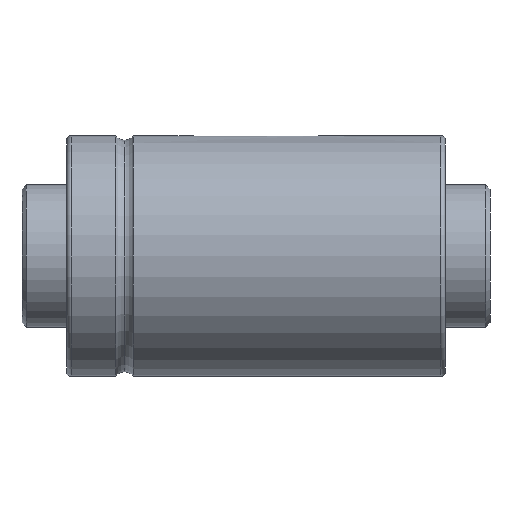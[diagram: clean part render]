
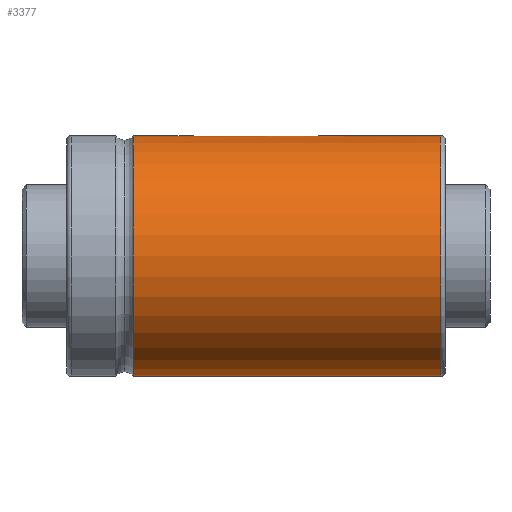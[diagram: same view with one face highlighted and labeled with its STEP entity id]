
A CAD part, front view. The second image highlights one B-rep face of the part: STEP entity #3377.
In plain terms, the highlighted cylindrical face has radius 27 mm (diameter 54 mm), a partial arc.
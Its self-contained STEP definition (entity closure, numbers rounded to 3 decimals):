
#86 = CARTESIAN_POINT ( 'NONE',  ( 84., 0., 0. ) ) ;
#111 = VERTEX_POINT ( 'NONE', #157 ) ;
#157 = CARTESIAN_POINT ( 'NONE',  ( 57.5, 0., 27. ) ) ;
#234 = LINE ( 'NONE', #363, #2774 ) ;
#269 = CARTESIAN_POINT ( 'NONE',  ( 56.989, -1.523, 26.957 ) ) ;
#363 = CARTESIAN_POINT ( 'NONE',  ( 85., 0., 27. ) ) ;
#379 = LINE ( 'NONE', #680, #2568 ) ;
#465 = CARTESIAN_POINT ( 'NONE',  ( 29.835, -2.5, 26.884 ) ) ;
#489 = CARTESIAN_POINT ( 'NONE',  ( 27.831, -1.255, 26.971 ) ) ;
#496 = EDGE_CURVE ( 'NONE', #1493, #1537, #2802, .T. ) ;
#538 = FACE_OUTER_BOUND ( 'NONE', #1231, .T. ) ;
#593 = CARTESIAN_POINT ( 'NONE',  ( 57.5, -0.165, 27. ) ) ;
#614 = DIRECTION ( 'NONE',  ( -1., 0., 0. ) ) ;
#623 = DIRECTION ( 'NONE',  ( 0., 0., 1. ) ) ;
#680 = CARTESIAN_POINT ( 'NONE',  ( 85., -2.5, 26.884 ) ) ;
#740 = CARTESIAN_POINT ( 'NONE',  ( 28.348, -1.884, 26.934 ) ) ;
#754 = CARTESIAN_POINT ( 'NONE',  ( 28.748, -2.17, 26.913 ) ) ;
#771 = CARTESIAN_POINT ( 'NONE',  ( 27.566, -0.659, 26.994 ) ) ;
#805 = ORIENTED_EDGE ( 'NONE', *, *, #2356, .T. ) ;
#841 = CARTESIAN_POINT ( 'NONE',  ( 57.5, 0., 27. ) ) ;
#851 = CARTESIAN_POINT ( 'NONE',  ( 57.372, -0.806, 26.988 ) ) ;
#874 = CARTESIAN_POINT ( 'NONE',  ( 57.484, -0.328, 26.998 ) ) ;
#955 = DIRECTION ( 'NONE',  ( -1., 0., 0. ) ) ;
#1040 = CARTESIAN_POINT ( 'NONE',  ( 28.118, -1.653, 26.95 ) ) ;
#1049 = ORIENTED_EDGE ( 'NONE', *, *, #1551, .T. ) ;
#1107 = B_SPLINE_CURVE_WITH_KNOTS ( 'NONE', 3,
 ( #841, #593, #874, #2836, #851, #3154, #3165, #269, #1127, #1427, #1116, #3129, #1726, #1454, #1422, #2845 ),
 .UNSPECIFIED., .F., .F.,
 ( 4, 2, 2, 2, 2, 2, 2, 4 ),
 ( 0.004, 0.004, 0.005, 0.005, 0.006, 0.006, 0.007, 0.008 ),
 .UNSPECIFIED. ) ;
#1114 = VERTEX_POINT ( 'NONE', #1792 ) ;
#1116 = CARTESIAN_POINT ( 'NONE',  ( 56.528, -1.986, 26.927 ) ) ;
#1127 = CARTESIAN_POINT ( 'NONE',  ( 56.884, -1.652, 26.95 ) ) ;
#1154 = B_SPLINE_CURVE_WITH_KNOTS ( 'NONE', 3,
 ( #2177, #465, #3010, #1314, #2749, #1905, #754, #3292, #740, #1040, #1593, #489, #3046, #771, #1351, #3578 ),
 .UNSPECIFIED., .F., .F.,
 ( 4, 2, 2, 2, 2, 2, 2, 4 ),
 ( -0.004, -0.003, -0.003, -0.002, -0.002, -0.001, -0.001, 0. ),
 .UNSPECIFIED. ) ;
#1168 = EDGE_CURVE ( 'NONE', #1717, #1213, #379, .T. ) ;
#1213 = VERTEX_POINT ( 'NONE', #2753 ) ;
#1231 = EDGE_LOOP ( 'NONE', ( #2636, #2425, #1706, #2772, #1976, #1049, #2190, #805 ) ) ;
#1260 = CYLINDRICAL_SURFACE ( 'NONE', #3495, 27. ) ;
#1314 = CARTESIAN_POINT ( 'NONE',  ( 29.353, -2.42, 26.891 ) ) ;
#1347 = CARTESIAN_POINT ( 'NONE',  ( 27.5, 0., 27. ) ) ;
#1351 = CARTESIAN_POINT ( 'NONE',  ( 27.5, -0.33, 27. ) ) ;
#1360 = CARTESIAN_POINT ( 'NONE',  ( 55., -2.5, 26.884 ) ) ;
#1366 = CARTESIAN_POINT ( 'NONE',  ( 85., 0., -27. ) ) ;
#1410 = VERTEX_POINT ( 'NONE', #3478 ) ;
#1422 = CARTESIAN_POINT ( 'NONE',  ( 55.33, -2.5, 26.884 ) ) ;
#1427 = CARTESIAN_POINT ( 'NONE',  ( 56.653, -1.882, 26.935 ) ) ;
#1454 = CARTESIAN_POINT ( 'NONE',  ( 55.659, -2.434, 26.89 ) ) ;
#1493 = VERTEX_POINT ( 'NONE', #1563 ) ;
#1537 = VERTEX_POINT ( 'NONE', #1605 ) ;
#1551 = EDGE_CURVE ( 'NONE', #1213, #1852, #1154, .T. ) ;
#1563 = CARTESIAN_POINT ( 'NONE',  ( 84., 0., -27. ) ) ;
#1593 = CARTESIAN_POINT ( 'NONE',  ( 28.014, -1.528, 26.957 ) ) ;
#1605 = CARTESIAN_POINT ( 'NONE',  ( 84., 0., 27. ) ) ;
#1706 = ORIENTED_EDGE ( 'NONE', *, *, #2883, .T. ) ;
#1717 = VERTEX_POINT ( 'NONE', #1360 ) ;
#1726 = CARTESIAN_POINT ( 'NONE',  ( 56.109, -2.246, 26.906 ) ) ;
#1732 = CARTESIAN_POINT ( 'NONE',  ( 85., 0., 0. ) ) ;
#1760 = EDGE_CURVE ( 'NONE', #1852, #1114, #3235, .T. ) ;
#1792 = CARTESIAN_POINT ( 'NONE',  ( 15., 0., 27. ) ) ;
#1852 = VERTEX_POINT ( 'NONE', #1347 ) ;
#1857 = VECTOR ( 'NONE', #3075, 1000. ) ;
#1905 = CARTESIAN_POINT ( 'NONE',  ( 28.892, -2.247, 26.906 ) ) ;
#1919 = DIRECTION ( 'NONE',  ( 1., 0., 0. ) ) ;
#1954 = VECTOR ( 'NONE', #2520, 1000. ) ;
#1976 = ORIENTED_EDGE ( 'NONE', *, *, #1168, .T. ) ;
#2177 = CARTESIAN_POINT ( 'NONE',  ( 30., -2.5, 26.884 ) ) ;
#2190 = ORIENTED_EDGE ( 'NONE', *, *, #1760, .T. ) ;
#2202 = AXIS2_PLACEMENT_3D ( 'NONE', #86, #955, #2986 ) ;
#2356 = EDGE_CURVE ( 'NONE', #1114, #1410, #3496, .T. ) ;
#2379 = EDGE_CURVE ( 'NONE', #1493, #1410, #2834, .T. ) ;
#2406 = EDGE_CURVE ( 'NONE', #111, #1717, #1107, .T. ) ;
#2425 = ORIENTED_EDGE ( 'NONE', *, *, #496, .T. ) ;
#2489 = DIRECTION ( 'NONE',  ( 0., 0., 1. ) ) ;
#2501 = CARTESIAN_POINT ( 'NONE',  ( 15., 0., 0. ) ) ;
#2520 = DIRECTION ( 'NONE',  ( -1., 0., 0. ) ) ;
#2568 = VECTOR ( 'NONE', #2966, 1000. ) ;
#2636 = ORIENTED_EDGE ( 'NONE', *, *, #2379, .F. ) ;
#2710 = AXIS2_PLACEMENT_3D ( 'NONE', #2501, #1919, #2489 ) ;
#2749 = CARTESIAN_POINT ( 'NONE',  ( 29.194, -2.372, 26.896 ) ) ;
#2753 = CARTESIAN_POINT ( 'NONE',  ( 30., -2.5, 26.884 ) ) ;
#2772 = ORIENTED_EDGE ( 'NONE', *, *, #2406, .T. ) ;
#2774 = VECTOR ( 'NONE', #2967, 1000. ) ;
#2802 = CIRCLE ( 'NONE', #2202, 27. ) ;
#2834 = LINE ( 'NONE', #1366, #1857 ) ;
#2836 = CARTESIAN_POINT ( 'NONE',  ( 57.42, -0.647, 26.993 ) ) ;
#2845 = CARTESIAN_POINT ( 'NONE',  ( 55., -2.5, 26.884 ) ) ;
#2883 = EDGE_CURVE ( 'NONE', #1537, #111, #234, .T. ) ;
#2966 = DIRECTION ( 'NONE',  ( -1., 0., 0. ) ) ;
#2967 = DIRECTION ( 'NONE',  ( -1., 0., 0. ) ) ;
#2986 = DIRECTION ( 'NONE',  ( 0., 0., -1. ) ) ;
#3010 = CARTESIAN_POINT ( 'NONE',  ( 29.672, -2.484, 26.886 ) ) ;
#3046 = CARTESIAN_POINT ( 'NONE',  ( 27.754, -1.109, 26.978 ) ) ;
#3075 = DIRECTION ( 'NONE',  ( -1., 0., 0. ) ) ;
#3129 = CARTESIAN_POINT ( 'NONE',  ( 56.255, -2.169, 26.913 ) ) ;
#3154 = CARTESIAN_POINT ( 'NONE',  ( 57.247, -1.108, 26.978 ) ) ;
#3165 = CARTESIAN_POINT ( 'NONE',  ( 57.17, -1.252, 26.971 ) ) ;
#3235 = LINE ( 'NONE', #3368, #1954 ) ;
#3292 = CARTESIAN_POINT ( 'NONE',  ( 28.477, -1.989, 26.927 ) ) ;
#3368 = CARTESIAN_POINT ( 'NONE',  ( 85., 0., 27. ) ) ;
#3377 = ADVANCED_FACE ( 'NONE', ( #538 ), #1260, .T. ) ;
#3478 = CARTESIAN_POINT ( 'NONE',  ( 15., 0., -27. ) ) ;
#3495 = AXIS2_PLACEMENT_3D ( 'NONE', #1732, #614, #623 ) ;
#3496 = CIRCLE ( 'NONE', #2710, 27. ) ;
#3578 = CARTESIAN_POINT ( 'NONE',  ( 27.5, 0., 27. ) ) ;
